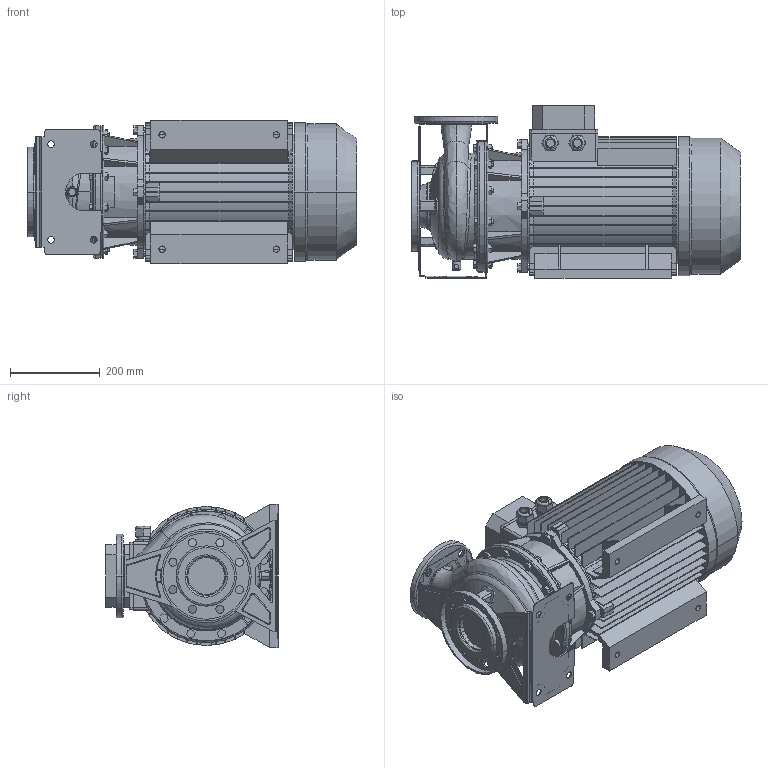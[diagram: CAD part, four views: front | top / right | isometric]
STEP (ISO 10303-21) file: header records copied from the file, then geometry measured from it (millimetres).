
FILE_DESCRIPTION((''),'2;1');
FILE_NAME('3M_65-160_15_IE2_ASM','2011-04-22T',('Utente'),('"Ebara Pumps Europe +39.444.706811"'),'PRO/ENGINEER BY PARAMETRIC TECHNOLOGY CORPORATION, 2009360','PRO/ENGINEER BY PARAMETRIC TECHNOLOGY CORPORATION, 2009360','');
FILE_SCHEMA(('AUTOMOTIVE_DESIGN { 1 0 10303 214 1 1 1 1 }'));
Length unit declared in the file: millimetre
Products named in the file (10): CORPO_65-160; ASP_65-160; FLANGIA_DIN_80_8_FORI; MAND_65-160; FLANGIA_DIN_65; BASE_3M_65-160; CORPO_SALDATO_65-160_ASM; SUPPORTO_3M_230_160_H109; MEC_160X170_210_250_IE2; 3M_65-160_15_IE2_ASM
Assembly tree (9 placements, depth 3):
  3M_65-160_15_IE2_ASM
    CORPO_SALDATO_65-160_ASM
      CORPO_65-160
      ASP_65-160
      FLANGIA_DIN_80_8_FORI
      MAND_65-160
      FLANGIA_DIN_65
      BASE_3M_65-160
    SUPPORTO_3M_230_160_H109
    MEC_160X170_210_250_IE2
Bounding box: 732 x 383 x 318 mm (x, y, z)
Volume: 25737754.1 mm3; surface area: 2628224.2 mm2
Topology: 11 solids, 13 shells, 1268 faces, 3239 edges, 2072 vertices
Faces by surface type: plane 726, cylinder 345, cone 96, torus 62, bspline 33, sphere 6
Entity records: 48497 total; most frequent: CARTESIAN_POINT 10742, DIRECTION 6616, ORIENTED_EDGE 6478, EDGE_CURVE 3239, AXIS2_PLACEMENT_3D 2334, VERTEX_POINT 2072, VECTOR 1948, LINE 1948
